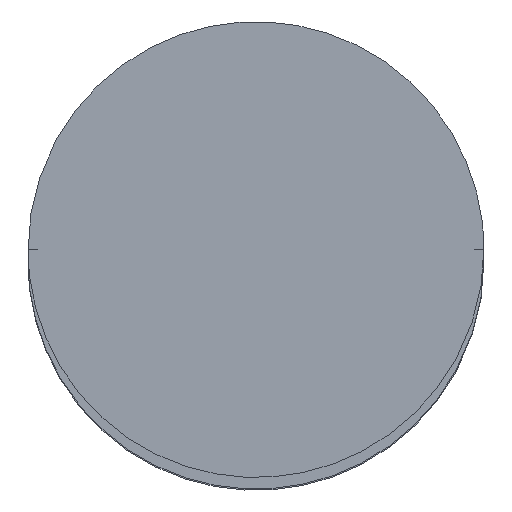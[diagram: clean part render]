
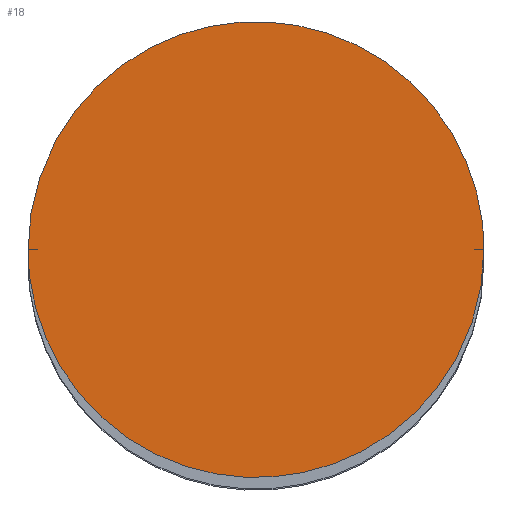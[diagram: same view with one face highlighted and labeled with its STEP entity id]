
A CAD part, top view. The second image highlights one B-rep face of the part: STEP entity #18.
In plain terms, the highlighted planar face has unit normal (0, 0, 1).
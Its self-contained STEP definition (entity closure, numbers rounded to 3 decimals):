
#18=ADVANCED_FACE('',(#32),#185,.T.);
#32=FACE_OUTER_BOUND('',#46,.T.);
#46=EDGE_LOOP('',(#66,#67));
#66=ORIENTED_EDGE('',*,*,#128,.F.);
#67=ORIENTED_EDGE('',*,*,#115,.F.);
#115=EDGE_CURVE('',#166,#176,#140,.T.);
#128=EDGE_CURVE('',#176,#166,#151,.T.);
#140=(
BOUNDED_CURVE()
B_SPLINE_CURVE(2,(#418,#419,#420,#421,#422),.UNSPECIFIED.,.F.,.F.)
B_SPLINE_CURVE_WITH_KNOTS((3,2,3),(-565.487,-424.115,
-282.743),.UNSPECIFIED.)
CURVE()
GEOMETRIC_REPRESENTATION_ITEM()
RATIONAL_B_SPLINE_CURVE((1.,0.707,1.,0.707,1.))
REPRESENTATION_ITEM('')
);
#151=(
BOUNDED_CURVE()
B_SPLINE_CURVE(2,(#473,#474,#475,#476,#477),.UNSPECIFIED.,.F.,.F.)
B_SPLINE_CURVE_WITH_KNOTS((3,2,3),(-282.743,-141.372,
0.),.UNSPECIFIED.)
CURVE()
GEOMETRIC_REPRESENTATION_ITEM()
RATIONAL_B_SPLINE_CURVE((1.,0.707,1.,0.707,1.))
REPRESENTATION_ITEM('')
);
#166=VERTEX_POINT('',#399);
#176=VERTEX_POINT('',#409);
#185=PLANE('',#285);
#285=AXIS2_PLACEMENT_3D('',#313,#294,$);
#294=DIRECTION('',(0.,0.,1.));
#313=CARTESIAN_POINT('',(1891.297,58.49,3200.));
#399=CARTESIAN_POINT('',(1711.297,-31.51,3200.));
#409=CARTESIAN_POINT('',(1891.297,-31.51,3200.));
#418=CARTESIAN_POINT('',(1711.297,-31.51,3200.));
#419=CARTESIAN_POINT('',(1711.297,58.49,3200.));
#420=CARTESIAN_POINT('',(1801.297,58.49,3200.));
#421=CARTESIAN_POINT('',(1891.297,58.49,3200.));
#422=CARTESIAN_POINT('',(1891.297,-31.51,3200.));
#473=CARTESIAN_POINT('',(1891.297,-31.51,3200.));
#474=CARTESIAN_POINT('',(1891.297,-121.51,3200.));
#475=CARTESIAN_POINT('',(1801.297,-121.51,3200.));
#476=CARTESIAN_POINT('',(1711.297,-121.51,3200.));
#477=CARTESIAN_POINT('',(1711.297,-31.51,3200.));
